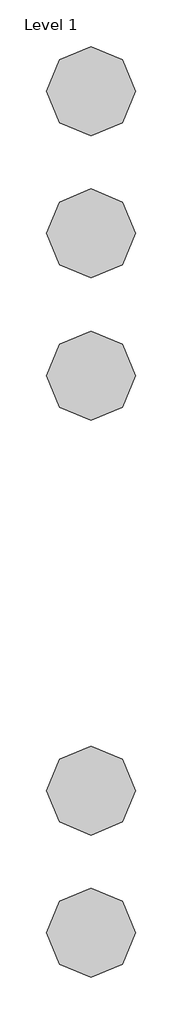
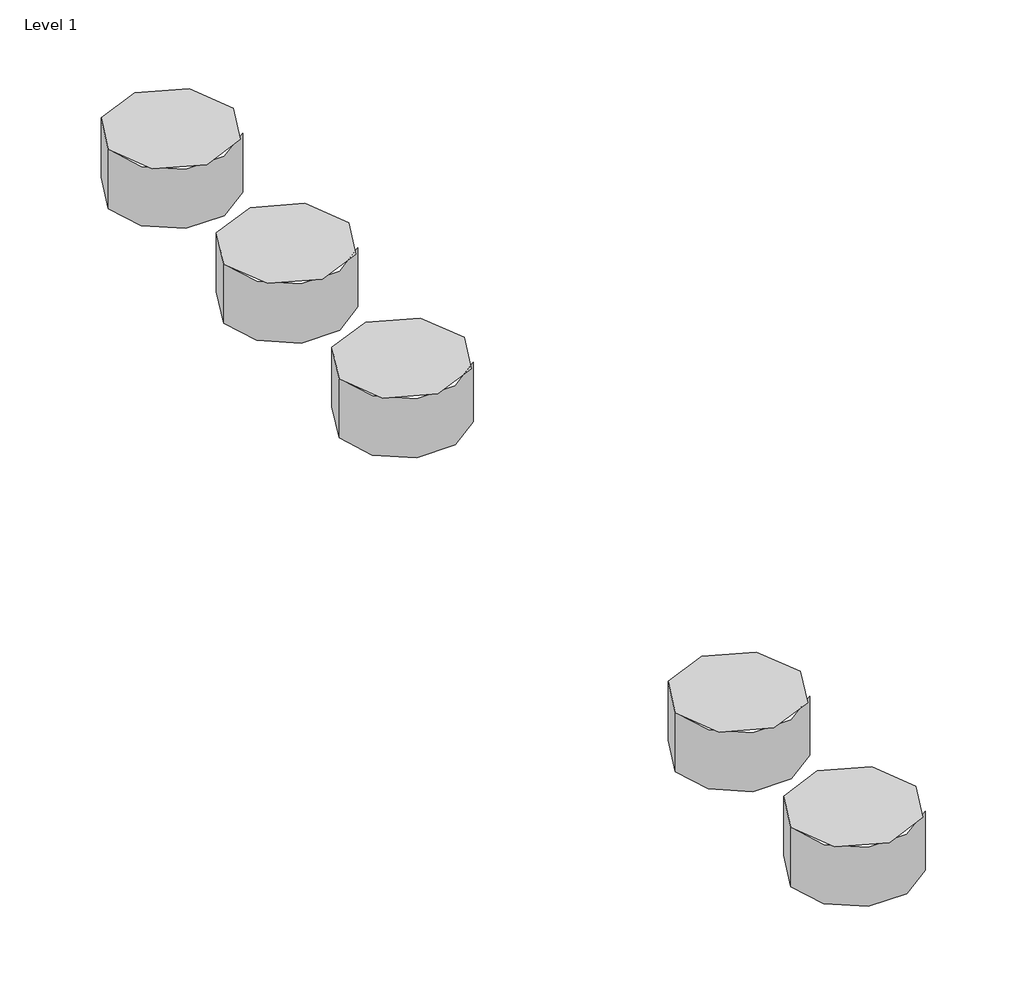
# One storey, incomplete: 5 proxies.
"""IFC4 building model written with IfcOpenShell, lengths in millimetres."""

from ifc_helpers import new_model, si_unit, origin, place, context, project, spatial, transform, mapped, element, save
from components import materialmodel_materialmodel_02e69005

model = new_model("IFC4")

# Units and contexts
model_context = context("Model", 3, world=origin())
ifc_project = project(units=[si_unit("LENGTHUNIT", "METRE", prefix="MILLI")], contexts=[model_context])

# Site, building, storey
site = spatial("IfcSite", under=ifc_project)
building = spatial("IfcBuilding", under=site)
storey = spatial("IfcBuildingStorey", under=building, Name="Level 1", Elevation=0.0)

# Proxies
placement = place(None, origin())
materialmodel_materialmodel_shape = materialmodel_materialmodel_02e69005(model_context)
element("IfcBuildingElementProxy", 1, Name="MaterialModel : MaterialModel", ObjectType="MaterialModel : MaterialModel", at=placement, inside=storey, context=model_context, shape_type="MappedRepresentation", body=[
    mapped(materialmodel_materialmodel_shape, transform((-5432.1657896, 4233.699322, 0.0), x_axis=(1.0, 0.0, 0.0), y_axis=(0.0, 1.0, 0.0), z_axis=(0.0, 0.0, 1.0))),
])
element("IfcBuildingElementProxy", 2, Name="MaterialModel : MaterialModel", ObjectType="MaterialModel : MaterialModel", at=placement, inside=storey, context=model_context, shape_type="MappedRepresentation", body=[
    mapped(materialmodel_materialmodel_shape, transform((-5432.1657896, 4073.699322, 0.0), x_axis=(1.0, 0.0, 0.0), y_axis=(0.0, 1.0, 0.0), z_axis=(0.0, 0.0, 1.0))),
])
element("IfcBuildingElementProxy", 3, Name="MaterialModel : MaterialModel", ObjectType="MaterialModel : MaterialModel", at=placement, inside=storey, context=model_context, shape_type="MappedRepresentation", body=[
    mapped(materialmodel_materialmodel_shape, transform((-5432.1657896, 4859.5048486, 0.0), x_axis=(1.0, 0.0, 0.0), y_axis=(0.0, 1.0, 0.0), z_axis=(0.0, 0.0, 1.0))),
])
element("IfcBuildingElementProxy", 4, Name="MaterialModel : MaterialModel", ObjectType="MaterialModel : MaterialModel", at=placement, inside=storey, context=model_context, shape_type="MappedRepresentation", body=[
    mapped(materialmodel_materialmodel_shape, transform((-5432.1657896, 5019.5048486, 0.0), x_axis=(1.0, 0.0, 0.0), y_axis=(0.0, 1.0, 0.0), z_axis=(0.0, 0.0, 1.0))),
])
element("IfcBuildingElementProxy", 5, Name="MaterialModel : MaterialModel", ObjectType="MaterialModel : MaterialModel", at=placement, inside=storey, context=model_context, shape_type="MappedRepresentation", body=[
    mapped(materialmodel_materialmodel_shape, transform((-5432.1657896, 4699.5048486, 0.0), x_axis=(1.0, 0.0, 0.0), y_axis=(0.0, 1.0, 0.0), z_axis=(0.0, 0.0, 1.0))),
])

save(model, "model.ifc")
